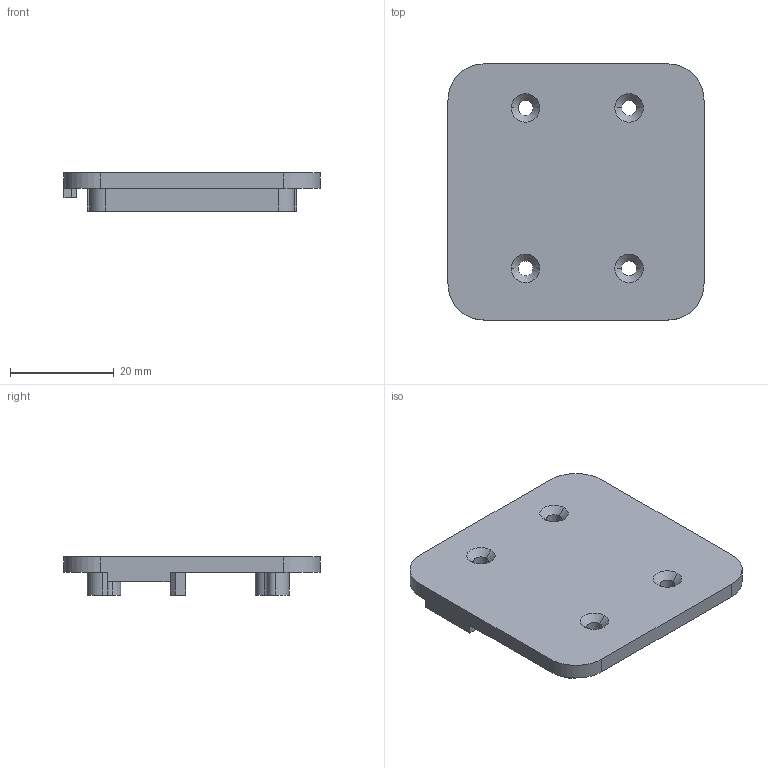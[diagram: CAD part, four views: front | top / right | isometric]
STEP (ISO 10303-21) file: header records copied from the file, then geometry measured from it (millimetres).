
FILE_DESCRIPTION (( 'STEP AP214' ), '1' );
FILE_NAME ('階啣.STEP', '2026-04-27T16:08:17', ( '' ), ( '' ), 'SwSTEP 2.0', 'SolidWorks 2021', '' );
FILE_SCHEMA (( 'AUTOMOTIVE_DESIGN' ));
Length unit declared in the file: millimetre
Products named in the file (1): 階啣
Bounding box: 49.5 x 49.5 x 7.4 mm (x, y, z)
Volume: 9102.5 mm3; surface area: 6774.3 mm2
Topology: 1 solids, 1 shells, 68 faces, 181 edges, 118 vertices
Faces by surface type: cylinder 31, plane 29, cone 8
Entity records: 2181 total; most frequent: DIRECTION 389, CARTESIAN_POINT 368, ORIENTED_EDGE 362, EDGE_CURVE 181, AXIS2_PLACEMENT_3D 139, VERTEX_POINT 118, VECTOR 111, LINE 111
